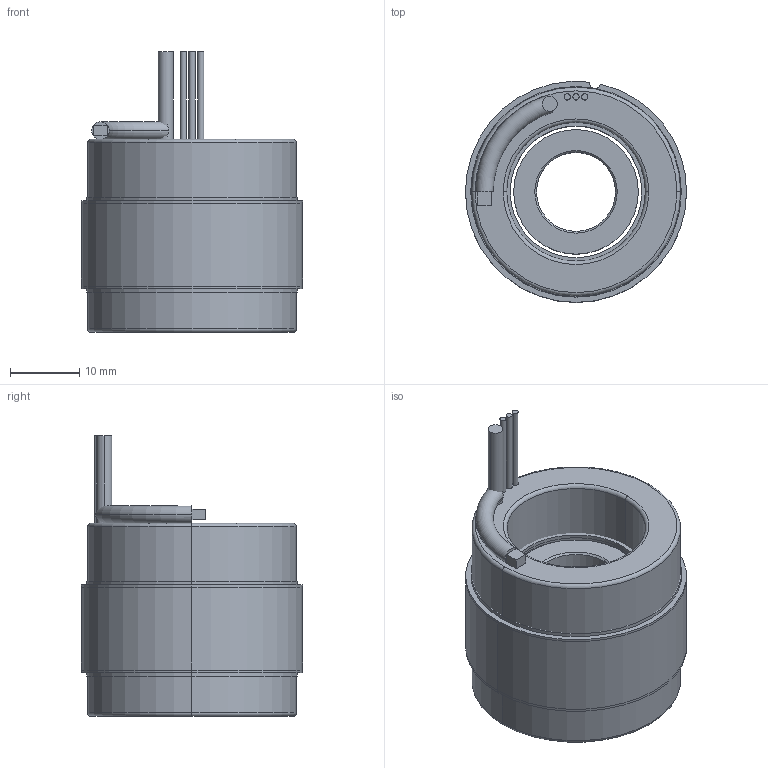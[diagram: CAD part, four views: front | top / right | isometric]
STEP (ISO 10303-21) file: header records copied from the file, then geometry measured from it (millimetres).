
FILE_DESCRIPTION (( 'STEP AP214' ), '1' );
FILE_NAME ('6100335-01.STEP', '2019-10-23T19:56:59', ( '' ), ( '' ), 'SwSTEP 2.0', 'SolidWorks 2016', '' );
FILE_SCHEMA (( 'AUTOMOTIVE_DESIGN' ));
Length unit declared in the file: millimetre
Products named in the file (11): 4400096-00; 4250359-XX_4250359-01; 6100335-01; 4450178-XX_4450178-01; 4600475-00; 4150165-XX_4150165-01; COMP4500538-XX(COIL)_COMP4500538-01(COIL); 4500538-XX_4500538-01
Assembly tree (10 placements, depth 4):
  6100335-01
    4500538-XX_4500538-01
      COMP4500538-XX(COIL)_COMP4500538-01(COIL)
      4450178-XX_4450178-01
        4450178-XX_4450178-01
        4400096-00
        4400096-00
        4600475-00
        4600475-00
    4250359-XX_4250359-01
      4150165-XX_4150165-01
Bounding box: 32 x 31.99 x 40.64 mm (x, y, z)
Volume: 20334.3 mm3; surface area: 14077.4 mm2
Topology: 12 solids, 12 shells, 90 faces, 178 edges, 112 vertices
Faces by surface type: cylinder 44, plane 32, torus 10, cone 4
Entity records: 2841 total; most frequent: DIRECTION 508, CARTESIAN_POINT 396, ORIENTED_EDGE 356, AXIS2_PLACEMENT_3D 224, EDGE_CURVE 178, CIRCLE 118, VERTEX_POINT 112, EDGE_LOOP 104
